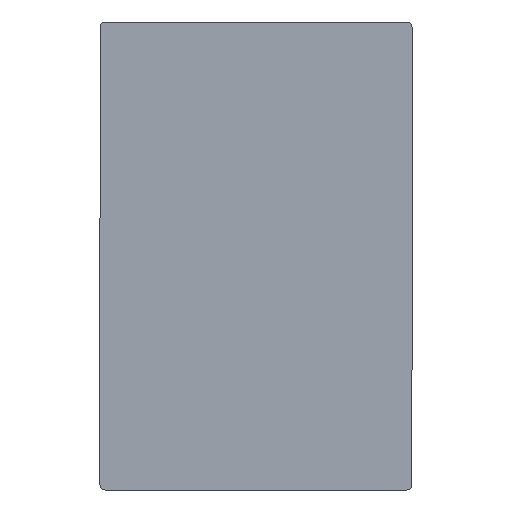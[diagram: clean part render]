
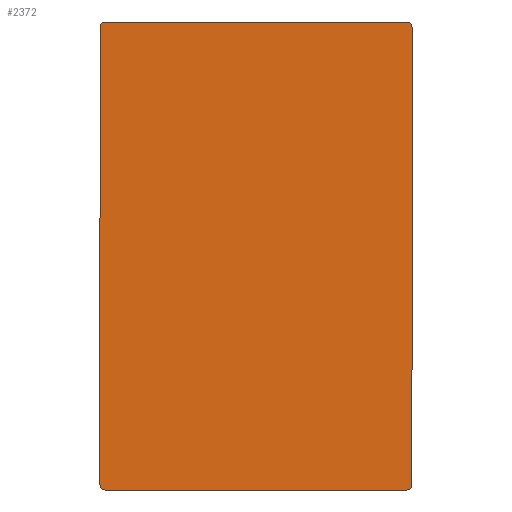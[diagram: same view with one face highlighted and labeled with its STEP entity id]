
A CAD part, front view. The second image highlights one B-rep face of the part: STEP entity #2372.
In plain terms, the highlighted planar face has unit normal (0, -1, 0).
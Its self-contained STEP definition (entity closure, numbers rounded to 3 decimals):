
#620 = CARTESIAN_POINT ( 'NONE',  ( 0., -46.5, 5. ) ) ;
#754 = AXIS2_PLACEMENT_3D ( 'NONE', #6612, #6621, #6622 ) ;
#1520 = EDGE_CURVE ( 'NONE', #3466, #3470, #3505, .T. ) ;
#1524 = EDGE_CURVE ( 'NONE', #3474, #3473, #3512, .T. ) ;
#1527 = EDGE_CURVE ( 'NONE', #3464, #4411, #3518, .T. ) ;
#1529 = EDGE_CURVE ( 'NONE', #3463, #3461, #3522, .T. ) ;
#1533 = EDGE_CURVE ( 'NONE', #4411, #3463, #3528, .T. ) ;
#1534 = EDGE_CURVE ( 'NONE', #3461, #3466, #3530, .T. ) ;
#1535 = EDGE_CURVE ( 'NONE', #3470, #3474, #3531, .T. ) ;
#1536 = EDGE_CURVE ( 'NONE', #3473, #3464, #3532, .T. ) ;
#1844 = AXIS2_PLACEMENT_3D ( 'NONE', #3684, #3685, #3686 ) ;
#1845 = AXIS2_PLACEMENT_3D ( 'NONE', #3687, #3688, #3689 ) ;
#1846 = AXIS2_PLACEMENT_3D ( 'NONE', #3690, #3691, #3692 ) ;
#1847 = AXIS2_PLACEMENT_3D ( 'NONE', #3693, #3694, #3695 ) ;
#2372 = ADVANCED_FACE ( 'NONE', ( #4969 ), #6619, .T. ) ;
#3305 = ORIENTED_EDGE ( 'NONE', *, *, #1536, .T. ) ;
#3306 = ORIENTED_EDGE ( 'NONE', *, *, #1524, .T. ) ;
#3307 = ORIENTED_EDGE ( 'NONE', *, *, #1535, .T. ) ;
#3308 = ORIENTED_EDGE ( 'NONE', *, *, #1520, .T. ) ;
#3309 = ORIENTED_EDGE ( 'NONE', *, *, #1534, .T. ) ;
#3310 = ORIENTED_EDGE ( 'NONE', *, *, #1529, .T. ) ;
#3311 = ORIENTED_EDGE ( 'NONE', *, *, #1533, .T. ) ;
#3312 = ORIENTED_EDGE ( 'NONE', *, *, #1527, .T. ) ;
#3461 = VERTEX_POINT ( 'NONE', #6522 ) ;
#3463 = VERTEX_POINT ( 'NONE', #6518 ) ;
#3464 = VERTEX_POINT ( 'NONE', #6528 ) ;
#3466 = VERTEX_POINT ( 'NONE', #6525 ) ;
#3470 = VERTEX_POINT ( 'NONE', #6532 ) ;
#3473 = VERTEX_POINT ( 'NONE', #6535 ) ;
#3474 = VERTEX_POINT ( 'NONE', #6536 ) ;
#3505 = LINE ( 'NONE', #3658, #3507 ) ;
#3507 = VECTOR ( 'NONE', #3654, 1000. ) ;
#3512 = LINE ( 'NONE', #3668, #3515 ) ;
#3515 = VECTOR ( 'NONE', #3669, 1000. ) ;
#3518 = LINE ( 'NONE', #3674, #3521 ) ;
#3521 = VECTOR ( 'NONE', #3675, 1000. ) ;
#3522 = LINE ( 'NONE', #3678, #3525 ) ;
#3525 = VECTOR ( 'NONE', #3679, 1000. ) ;
#3528 = CIRCLE ( 'NONE', #1844, 5. ) ;
#3530 = CIRCLE ( 'NONE', #1845, 5. ) ;
#3531 = CIRCLE ( 'NONE', #1846, 5. ) ;
#3532 = CIRCLE ( 'NONE', #1847, 5. ) ;
#3654 = DIRECTION ( 'NONE',  ( 0., 0., 1. ) ) ;
#3658 = CARTESIAN_POINT ( 'NONE',  ( 300., -46.5, 0. ) ) ;
#3668 = CARTESIAN_POINT ( 'NONE',  ( 300., -46.5, 450. ) ) ;
#3669 = DIRECTION ( 'NONE',  ( -1., 0., 0. ) ) ;
#3674 = CARTESIAN_POINT ( 'NONE',  ( 0., -46.5, 450. ) ) ;
#3675 = DIRECTION ( 'NONE',  ( 0., 0., -1. ) ) ;
#3678 = CARTESIAN_POINT ( 'NONE',  ( 0., -46.5, 0. ) ) ;
#3679 = DIRECTION ( 'NONE',  ( 1., 0., 0. ) ) ;
#3684 = CARTESIAN_POINT ( 'NONE',  ( 5., -46.5, 5. ) ) ;
#3685 = DIRECTION ( 'NONE',  ( 0., -1., 0. ) ) ;
#3686 = DIRECTION ( 'NONE',  ( 0., 0., -1. ) ) ;
#3687 = CARTESIAN_POINT ( 'NONE',  ( 295., -46.5, 5. ) ) ;
#3688 = DIRECTION ( 'NONE',  ( 0., -1., 0. ) ) ;
#3689 = DIRECTION ( 'NONE',  ( 0., 0., -1. ) ) ;
#3690 = CARTESIAN_POINT ( 'NONE',  ( 295., -46.5, 445. ) ) ;
#3691 = DIRECTION ( 'NONE',  ( 0., -1., 0. ) ) ;
#3692 = DIRECTION ( 'NONE',  ( 0., 0., -1. ) ) ;
#3693 = CARTESIAN_POINT ( 'NONE',  ( 5., -46.5, 445. ) ) ;
#3694 = DIRECTION ( 'NONE',  ( 0., -1., 0. ) ) ;
#3695 = DIRECTION ( 'NONE',  ( 0., 0., -1. ) ) ;
#4411 = VERTEX_POINT ( 'NONE', #620 ) ;
#4427 = EDGE_LOOP ( 'NONE', ( #3312, #3311, #3310, #3309, #3308, #3307, #3306, #3305 ) ) ;
#4969 = FACE_OUTER_BOUND ( 'NONE', #4427, .T. ) ;
#6518 = CARTESIAN_POINT ( 'NONE',  ( 5., -46.5, 0. ) ) ;
#6522 = CARTESIAN_POINT ( 'NONE',  ( 295., -46.5, 0. ) ) ;
#6525 = CARTESIAN_POINT ( 'NONE',  ( 300., -46.5, 5. ) ) ;
#6528 = CARTESIAN_POINT ( 'NONE',  ( 0., -46.5, 445. ) ) ;
#6532 = CARTESIAN_POINT ( 'NONE',  ( 300., -46.5, 445. ) ) ;
#6535 = CARTESIAN_POINT ( 'NONE',  ( 5., -46.5, 450. ) ) ;
#6536 = CARTESIAN_POINT ( 'NONE',  ( 295., -46.5, 450. ) ) ;
#6612 = CARTESIAN_POINT ( 'NONE',  ( 0., -46.5, 0. ) ) ;
#6619 = PLANE ( 'NONE',  #754 ) ;
#6621 = DIRECTION ( 'NONE',  ( 0., -1., 0. ) ) ;
#6622 = DIRECTION ( 'NONE',  ( 0., 0., -1. ) ) ;
